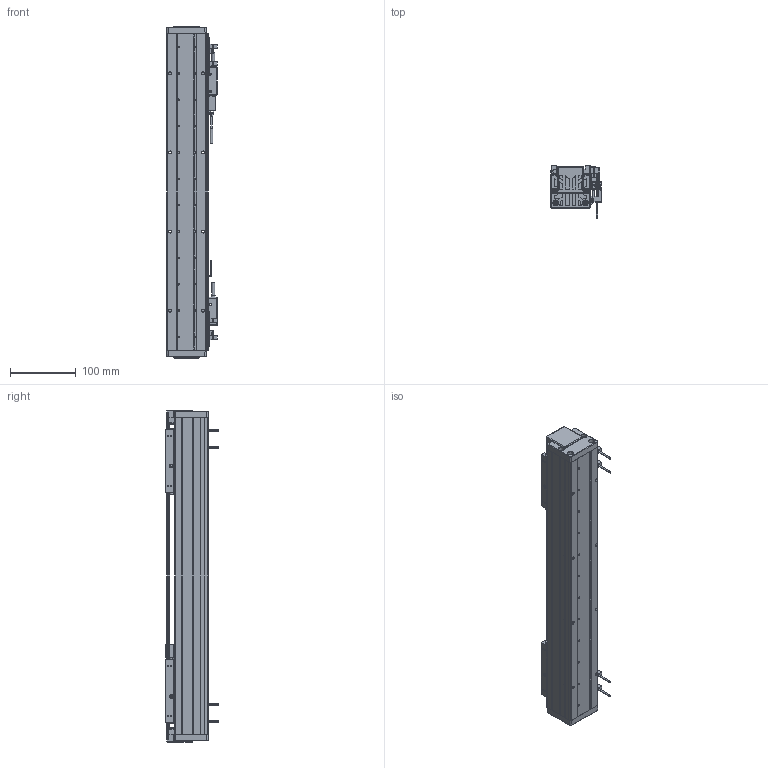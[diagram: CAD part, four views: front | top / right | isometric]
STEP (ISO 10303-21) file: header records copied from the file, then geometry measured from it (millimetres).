
FILE_DESCRIPTION (( 'STEP AP203' ), '1' );
FILE_NAME ('DA-A60-2-B1-T240-C010-0.2 眻盄萇儂.STEP', '2025-08-13T01:06:13', ( '' ), ( '' ), 'SwSTEP 2.0', 'SolidWorks 2019', '' );
FILE_SCHEMA (( 'CONFIG_CONTROL_DESIGN' ));
Length unit declared in the file: millimetre
Products named in the file (27): 复件 DA60-HC-XJ-01 中间缓冲橡胶^DA-A60-2-B1-T60-C010-0.2-N; 葩璃 DA60-DMT-DTJ-00 黍杅芛盓殤^DA-A60-2-B1-T60-C010-0.2-N; 葩璃 DA60-XJ-00 砎蝶結輸^DA-A60-2-B1-T60-C010-0.2-N; 葩璃 DA60-HK-DP-01 結え^AU60-V 幗紩賑怢; ｸｴｼ BAKM01-W030-C1-TP-0.2 ﾖｱﾏﾟｵ扈巐ｯﾗﾓ^DA-A60-2-B1-T60-C010-0.2-N; IU-AU60-L-00 菁釱(480); 葩璃 XD-U-02  棠掑喜^DA-A60-2-B1-T60-C010-0.2-N; AU60-V 幗紩賑怢; 葩璃 PM-T45^DA-A60-2-B1-T60-C010-0.2-N; DA-A60-2-B1-T240-C010-0.2 眻盄萇儂; DA60-YT-B1-HT-B-01 珨极趙賑雄怢啣-1; ｸｴｼ DA60-DMT-DTJ-ZJ-00 ﾖﾐｼ荼ﾁﾊﾍｷﾖｧｼﾜ^DA-A60-2-B1-T60-C010-0.2-N; 葩璃 鞠褒情蹟譫 M3^DA-A60-2-B1-T60-C010-0.2-N(GB_FASTENER_NUT_STNAB M3-C); 葩璃 PM-Y65^DA-A60-2-B1-T60-C010-0.2-N; 复件 DA60-GT-T-00 底座钢轨^AU60-L 底座导轨; DA60-T-002-00  裔啣; 葩璃 DA60-DG-H-N-00 傷裔^DA-A60-2-B1-T60-C010-0.2-N; AU60-L 菁釱絳寢; DA60-B1-HT-B-03 賑雄怢啣; 葩璃 AKM01-W030-TRL^DA-A60-2-B1-T60-C010-0.2-N; 复件 纯铜油杯 6x6mm^AU60-V 滚珠滑台; ｸｴｼ DA-A60-GYP-DMT-00 ｹ箏邵ﾐﾓｦﾆｬ^DA-A60-2-B1-T60-C010-0.2-N(ﾄｬﾈﾏ); AU60-V 幗紩賑怢-1; DA60-YT-B1-HT-B-01 珨极趙賑雄怢啣; 葩璃 DMT-010 1米m 0.2M^DA-A60-2-B1-T60-C010-0.2-N; ｸｴｼ DA60-GYP-ZJ-01 ﾖﾐｼ荵箏邵ﾐﾓｦﾆｬ^DA-A60-2-B1-T60-C010-0.2-N(ﾄｬﾈﾏ); 复件 DA60-B1-GT-00 滑块钢轨^DA60-YT-B1-HT-B-01 一体化滑动台板
Assembly tree (51 placements, depth 4):
  DA-A60-2-B1-T240-C010-0.2 眻盄萇儂
    AU60-L 菁釱絳寢
      IU-AU60-L-00 菁釱(480)
      复件 DA60-GT-T-00 底座钢轨^AU60-L 底座导轨  x2
    AU60-V 幗紩賑怢
      DA60-YT-B1-HT-B-01 珨极趙賑雄怢啣
        DA60-B1-HT-B-03 賑雄怢啣
        复件 DA60-B1-GT-00 滑块钢轨^DA60-YT-B1-HT-B-01 一体化滑动台板  x2
      葩璃 DA60-HK-DP-01 結え^AU60-V 幗紩賑怢  x2
      复件 纯铜油杯 6x6mm^AU60-V 滚珠滑台
    AU60-V 幗紩賑怢-1
      DA60-YT-B1-HT-B-01 珨极趙賑雄怢啣-1
        DA60-B1-HT-B-03 賑雄怢啣
        复件 DA60-B1-GT-00 滑块钢轨^DA60-YT-B1-HT-B-01 一体化滑动台板  x2
      葩璃 DA60-HK-DP-01 結え^AU60-V 幗紩賑怢  x2
      复件 纯铜油杯 6x6mm^AU60-V 滚珠滑台
    ｸｴｼ DA60-DMT-DTJ-ZJ-00 ﾖﾐｼ荼ﾁﾊﾍｷﾖｧｼﾜ^DA-A60-2-B1-T60-C010-0.2-N
    葩璃 PM-Y65^DA-A60-2-B1-T60-C010-0.2-N
    复件 DA60-HC-XJ-01 中间缓冲橡胶^DA-A60-2-B1-T60-C010-0.2-N  x2
    ｸｴｼ DA60-GYP-ZJ-01 ﾖﾐｼ荵箏邵ﾐﾓｦﾆｬ^DA-A60-2-B1-T60-C010-0.2-N(ﾄｬﾈﾏ)
    ｸｴｼ DA-A60-GYP-DMT-00 ｹ箏邵ﾐﾓｦﾆｬ^DA-A60-2-B1-T60-C010-0.2-N(ﾄｬﾈﾏ)  x2
    葩璃 DA60-DMT-DTJ-00 黍杅芛盓殤^DA-A60-2-B1-T60-C010-0.2-N
    葩璃 DMT-010 1米m 0.2M^DA-A60-2-B1-T60-C010-0.2-N  x2
    ｸｴｼ BAKM01-W030-C1-TP-0.2 ﾖｱﾏﾟｵ扈巐ｯﾗﾓ^DA-A60-2-B1-T60-C010-0.2-N  x2
    葩璃 DA60-XJ-00 砎蝶結輸^DA-A60-2-B1-T60-C010-0.2-N  x2
    葩璃 DA60-DG-H-N-00 傷裔^DA-A60-2-B1-T60-C010-0.2-N  x2
    DA60-T-002-00  裔啣
    葩璃 AKM01-W030-TRL^DA-A60-2-B1-T60-C010-0.2-N
    葩璃 PM-T45^DA-A60-2-B1-T60-C010-0.2-N  x4
    葩璃 XD-U-02  棠掑喜^DA-A60-2-B1-T60-C010-0.2-N
    葩璃 鞠褒情蹟譫 M3^DA-A60-2-B1-T60-C010-0.2-N(GB_FASTENER_NUT_STNAB M3-C)  x8
Bounding box: 76.95 x 80 x 504 mm (x, y, z)
Volume: 1255277.2 mm3; surface area: 459894.3 mm2
Topology: 57 solids, 61 shells, 3592 faces, 9061 edges, 5508 vertices
Faces by surface type: plane 1386, cylinder 1258, bspline 592, cone 342, torus 12, sphere 2
Entity records: 76773 total; most frequent: CARTESIAN_POINT 23690, ORIENTED_EDGE 10676, DIRECTION 9835, EDGE_CURVE 5338, AXIS2_PLACEMENT_3D 3415, VERTEX_POINT 3347, LINE 3005, VECTOR 3005
